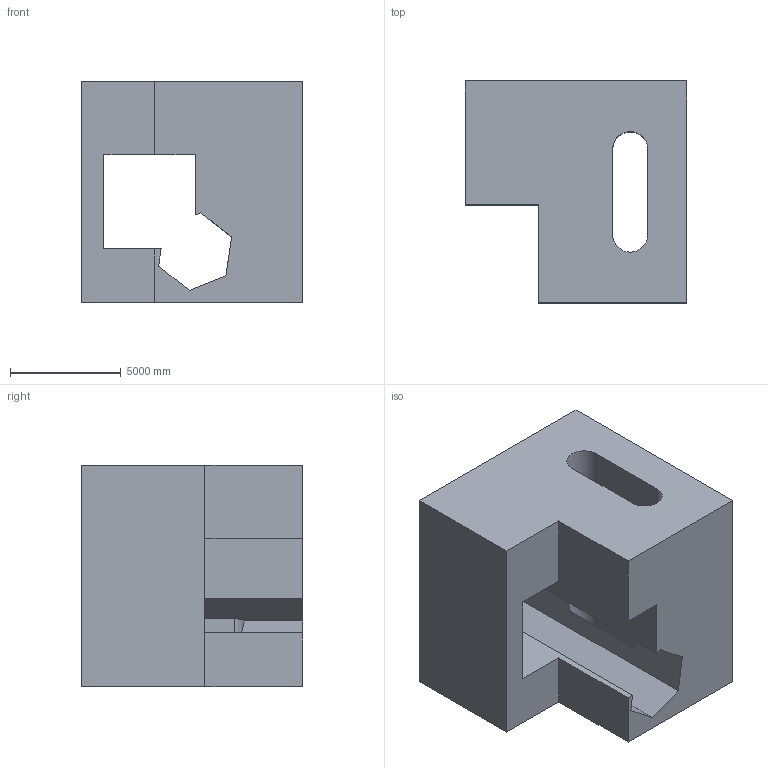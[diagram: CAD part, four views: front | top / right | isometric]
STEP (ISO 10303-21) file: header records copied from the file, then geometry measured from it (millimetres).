
FILE_DESCRIPTION (( 'STEP AP203' ), '1' );
FILE_NAME ('68.STEP', '2022-08-31T11:23:03', ( 'user' ), ( '' ), 'SwSTEP 2.0', 'SolidWorks 2021', '' );
FILE_SCHEMA (( 'CONFIG_CONTROL_DESIGN' ));
Length unit declared in the file: centimetre
Products named in the file (1): 68
Bounding box: 10000 x 10000 x 10000 mm (x, y, z)
Volume: 578046191352.3 mm3; surface area: 784333119.1 mm2
Topology: 1 solids, 1 shells, 24 faces, 75 edges, 50 vertices
Faces by surface type: plane 22, cylinder 2
Entity records: 912 total; most frequent: CARTESIAN_POINT 162, ORIENTED_EDGE 150, DIRECTION 125, EDGE_CURVE 75, LINE 67, VECTOR 67, VERTEX_POINT 50, AXIS2_PLACEMENT_3D 29
